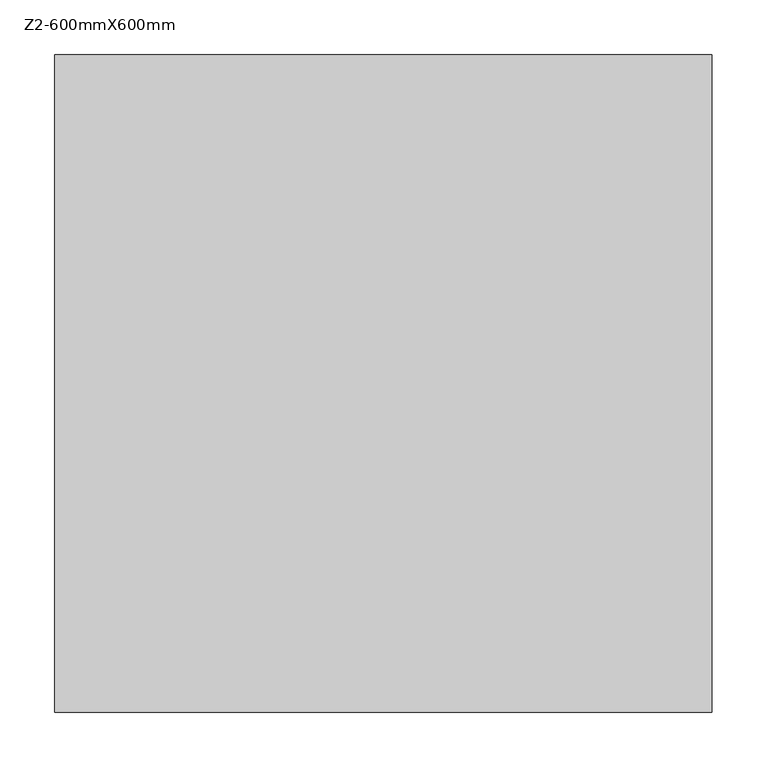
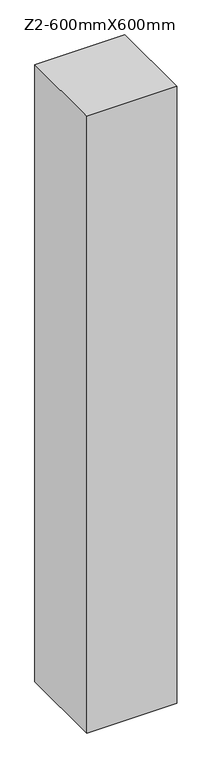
"""IFC4 building model written with IfcOpenShell, lengths in millimetres: column geometry, 混凝土 - 矩形 - 柱 : Z2-600mmX600mm."""

from ifc_helpers import new_model, si_unit, frame, origin, place, context, project, spatial, polyline, outline, extrude, source, transform, mapped, element, save


def z2_600mmx600mm_a56e41cd(model_context):
    return source(origin(), model_context, "Body", "SweptSolid", [
        extrude(outline(polyline([(300.0, 300.0), (300.0, -300.0), (-300.0, -300.0), (-300.0, 300.0), (300.0, 300.0)])), frame((0.0, 0.0, -450.0), z_axis=(0.0, 0.0, 1.0), x_axis=(1.0, 0.0, 0.0)), (0.0, 0.0, 1.0), 4350.0),
    ])


if __name__ == "__main__":
    model = new_model("IFC4")
    model_context = context("Model", 3, world=origin())
    ifc_project = project(units=[si_unit("LENGTHUNIT", "METRE", prefix="MILLI")], contexts=[model_context])
    site = spatial("IfcSite", under=ifc_project)
    building = spatial("IfcBuilding", under=site)
    placement = place(None, origin())
    z2_600mmx600mm_shape = z2_600mmx600mm_a56e41cd(model_context)
    element("IfcColumn", 1, ObjectType="混凝土 - 矩形 - 柱 : Z2-600mmX600mm", at=placement, inside=building, context=model_context, shape_type="MappedRepresentation", body=[
        mapped(z2_600mmx600mm_shape, transform((0.0, 0.0, 0.0), x_axis=(1.0, 0.0, 0.0), y_axis=(0.0, 1.0, 0.0), z_axis=(0.0, 0.0, 1.0))),
    ])
    save(model, "model.ifc")
